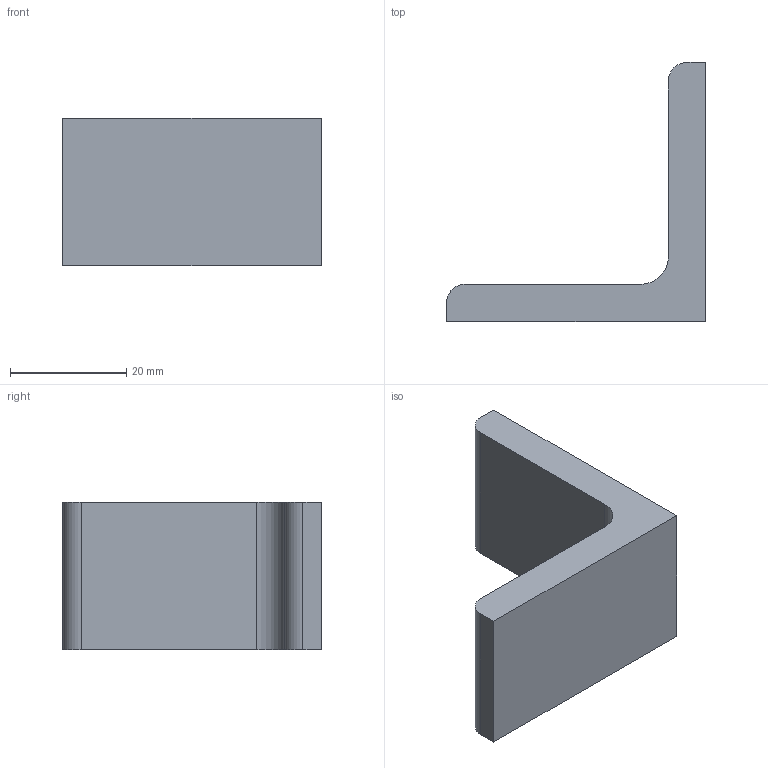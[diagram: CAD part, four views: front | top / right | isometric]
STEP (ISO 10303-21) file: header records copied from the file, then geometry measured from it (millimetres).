
FILE_DESCRIPTION(/* description */ ('AL ANGLE 1.75X1.75'),/* implementation_level */ '2;1');
FILE_NAME(/* name */ 'Z:\WEBSITE\DREAMWEAVER\MiniTec\Products\Aluminum_Profiles\CAD\STEP\20.9006 AL ANGLE 1.75X1.75.stp',/* time_stamp */ '2019-05-16T14:36:16-04:00',/* author */ ('amoles'),/* organization */ (''),/* preprocessor_version */ 'ST-DEVELOPER v17',/* originating_system */ 'Autodesk Inventor 2018',/* authorisation */ '');
FILE_SCHEMA (('CONFIG_CONTROL_DESIGN'));
Length unit declared in the file: inch
Products named in the file (1): 20.9006 AL ANGLE 1.75X1.75
Bounding box: 44.45 x 44.45 x 25.4 mm (x, y, z)
Volume: 13328.9 mm3; surface area: 5444.4 mm2
Topology: 1 solids, 1 shells, 11 faces, 27 edges, 18 vertices
Faces by surface type: plane 8, cylinder 3
Entity records: 368 total; most frequent: DIRECTION 57, CARTESIAN_POINT 57, ORIENTED_EDGE 54, EDGE_CURVE 27, LINE 21, VECTOR 21, VERTEX_POINT 18, AXIS2_PLACEMENT_3D 18
